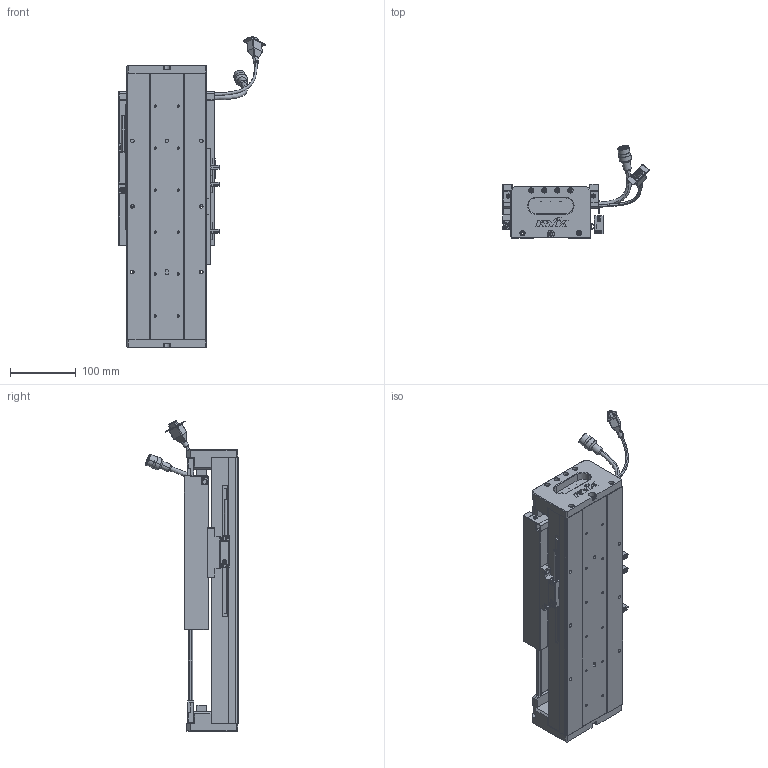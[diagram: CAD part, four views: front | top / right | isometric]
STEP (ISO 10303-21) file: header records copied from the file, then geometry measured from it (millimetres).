
FILE_DESCRIPTION (( 'STEP AP203' ), '1' );
FILE_NAME ('Z3-RY120D-1-L500-B-K.SLDASM_0100.step', '2021-05-17T05:45:32', ( '盈信电脑' ), ( '东莞市道滘镇水果街19号' ), 'SwSTEP 2.0', 'SolidWorks 2016', '' );
FILE_SCHEMA (( 'CONFIG_CONTROL_DESIGN' ));
Length unit declared in the file: millimetre
Products named in the file (37): 120-Z-臏賑輸盄裔(21遴); 榋妏寠巭燃_暯_M2_2; 覜茼ん672; SCREW-M1.6-1; Z-RY120D詩湍狟揤裔; 080黍杅芛假蚾釱21遴; 672嫖萇羲壽假蚾釱; Z3-RY120-500-倰第菁釱_0100; SCREW-M1.7-1; Z-RY120D詩湍奻揤裔; SHIELDPLATE; LABEL-Part-1; Z3-RY120D-1-L500-B-K.SLDASM_0100; SCREW-M1.6-2; HARNESS; LABEL; RY100FB-遵嫖萇覜茼え; HARNESS-Part-2; SEAL-Part-1; PBU_SHEET; PSLH080_PSLF2; SCALE-Part-2; 140蚥薯蝶輸; Z-120詩湍傷裔啣; Z3-RY120-L500詩湍100mm遵_0100; SCALE-Part-1; COVER-Part-1; SEAL; HARNESS-Part-1; SCREW-M1.6-3; SCREW-M1.7; SCALE; 140雄赽晤鎢ん堤盄; SCREW-M1.6; HOLDER0; COVER; Z3-RY120铝滑块（21款）
Assembly tree (43 placements, depth 4):
  Z3-RY120D-1-L500-B-K.SLDASM_0100
    Z3-RY120-500-倰第菁釱_0100
    覜茼ん672  x3
    672嫖萇羲壽假蚾釱  x2
    Z3-RY120铝滑块（21款）
    PSLH080_PSLF2
      SCALE
        SCALE-Part-1
        SCALE-Part-2
      HARNESS
        HARNESS-Part-1
        HARNESS-Part-2
      LABEL
        LABEL-Part-1
      COVER
        COVER-Part-1
      SEAL
        SEAL-Part-1
      榋妏寠巭燃_暯_M2_2
      SHIELDPLATE
      SCREW-M1.7
      SCREW-M1.7-1
      PBU_SHEET
      SCREW-M1.6
      SCREW-M1.6-1
      SCREW-M1.6-2
      SCREW-M1.6-3
      HOLDER0
    080黍杅芛假蚾釱21遴
    120-Z-臏賑輸盄裔(21遴)
    140雄赽晤鎢ん堤盄
    140蚥薯蝶輸  x2
    RY100FB-遵嫖萇覜茼え
    Z-120詩湍傷裔啣  x2
    Z-RY120D詩湍奻揤裔  x2
    Z-RY120D詩湍狟揤裔  x2
    Z3-RY120-L500詩湍100mm遵_0100
Bounding box: 222.88 x 140.94 x 474 mm (x, y, z)
Volume: 1860199.8 mm3; surface area: 573620.7 mm2
Topology: 38 solids, 38 shells, 2433 faces, 6339 edges, 4002 vertices
Faces by surface type: plane 1064, cylinder 1009, cone 238, torus 69, bspline 53
Entity records: 67458 total; most frequent: CARTESIAN_POINT 15843, DIRECTION 10099, ORIENTED_EDGE 9726, EDGE_CURVE 4863, AXIS2_PLACEMENT_3D 3672, VERTEX_POINT 3122, LINE 2755, VECTOR 2755
